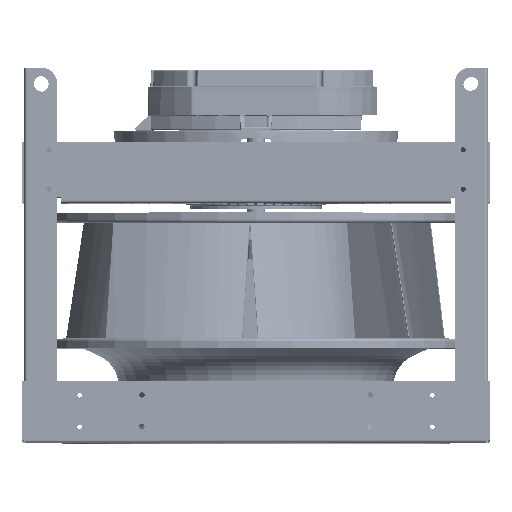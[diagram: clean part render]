
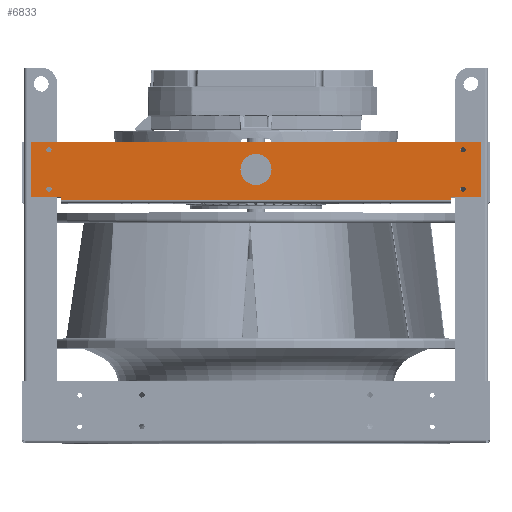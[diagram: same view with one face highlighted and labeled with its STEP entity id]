
A CAD part, top view. The second image highlights one B-rep face of the part: STEP entity #6833.
In plain terms, the highlighted planar face has unit normal (0, 0, 1).
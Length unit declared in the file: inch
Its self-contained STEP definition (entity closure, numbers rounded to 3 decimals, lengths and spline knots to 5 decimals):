
#1068 = CARTESIAN_POINT ( 'NONE',  ( 13.17385, 1.27, 0.135 ) ) ;
#2394 = EDGE_CURVE ( 'NONE', #306601, #306601, #106192, .T. ) ;
#2732 = CARTESIAN_POINT ( 'NONE',  ( -13.17385, 1.27, 0.135 ) ) ;
#4136 = VERTEX_POINT ( 'NONE', #143781 ) ;
#6833 = ADVANCED_FACE ( 'NONE', ( #32430, #138111, #333570, #403207, #340189, #232497 ), #99918, .F. ) ;
#11940 = CARTESIAN_POINT ( 'NONE',  ( 13.34586, -1.27, 0.135 ) ) ;
#13791 = LINE ( 'NONE', #146567, #251068 ) ;
#15664 = EDGE_CURVE ( 'NONE', #82399, #347928, #45183, .T. ) ;
#30208 = CARTESIAN_POINT ( 'NONE',  ( -14.50586, 1.77, 0.135 ) ) ;
#32430 = FACE_BOUND ( 'NONE', #339749, .T. ) ;
#33673 = CIRCLE ( 'NONE', #270308, 1. ) ;
#37167 = CARTESIAN_POINT ( 'NONE',  ( -14.50586, -1.77, 0.135 ) ) ;
#41011 = EDGE_CURVE ( 'NONE', #347928, #4136, #239133, .T. ) ;
#43562 = VERTEX_POINT ( 'NONE', #311688 ) ;
#45183 = LINE ( 'NONE', #121518, #228601 ) ;
#45475 = EDGE_CURVE ( 'NONE', #43562, #387076, #67327, .T. ) ;
#47908 = CARTESIAN_POINT ( 'NONE',  ( 14.50586, 1.77, 0.135 ) ) ;
#49853 = EDGE_LOOP ( 'NONE', ( #57583 ) ) ;
#56292 = EDGE_LOOP ( 'NONE', ( #283979 ) ) ;
#57583 = ORIENTED_EDGE ( 'NONE', *, *, #2394, .F. ) ;
#60076 = EDGE_CURVE ( 'NONE', #230720, #43562, #71470, .T. ) ;
#62201 = CIRCLE ( 'NONE', #234439, 0.172 ) ;
#63390 = LINE ( 'NONE', #200471, #200411 ) ;
#67327 = LINE ( 'NONE', #341335, #158115 ) ;
#70202 = VERTEX_POINT ( 'NONE', #274622 ) ;
#71470 = LINE ( 'NONE', #379198, #247603 ) ;
#82399 = VERTEX_POINT ( 'NONE', #152774 ) ;
#95603 = ORIENTED_EDGE ( 'NONE', *, *, #45475, .T. ) ;
#98949 = CIRCLE ( 'NONE', #421553, 0.172 ) ;
#99918 = PLANE ( 'NONE',  #267162 ) ;
#100777 = DIRECTION ( 'NONE',  ( -1., 0., 0. ) ) ;
#106192 = CIRCLE ( 'NONE', #313903, 0.172 ) ;
#115152 = CARTESIAN_POINT ( 'NONE',  ( 12.59586, 1.9775, 0.135 ) ) ;
#116811 = VECTOR ( 'NONE', #441384, 39.37008 ) ;
#121518 = CARTESIAN_POINT ( 'NONE',  ( 14.50586, -1.77, 0.135 ) ) ;
#130524 = AXIS2_PLACEMENT_3D ( 'NONE', #134175, #239654, #138628 ) ;
#132934 = CARTESIAN_POINT ( 'NONE',  ( -13.34586, -1.27, 0.135 ) ) ;
#133716 = DIRECTION ( 'NONE',  ( -1., 0., 0. ) ) ;
#134175 = CARTESIAN_POINT ( 'NONE',  ( -13.34586, 1.27, 0.135 ) ) ;
#138111 = FACE_OUTER_BOUND ( 'NONE', #437319, .T. ) ;
#138628 = DIRECTION ( 'NONE',  ( 1., 0., 0. ) ) ;
#142113 = EDGE_LOOP ( 'NONE', ( #293849 ) ) ;
#143781 = CARTESIAN_POINT ( 'NONE',  ( 12.59586, 1.77, 0.135 ) ) ;
#145616 = DIRECTION ( 'NONE',  ( 1., 0., 0. ) ) ;
#146567 = CARTESIAN_POINT ( 'NONE',  ( 12.59586, 1.9775, 0.135 ) ) ;
#152774 = CARTESIAN_POINT ( 'NONE',  ( 14.50586, -1.77, 0.135 ) ) ;
#153199 = EDGE_CURVE ( 'NONE', #160371, #160371, #62201, .T. ) ;
#156330 = VERTEX_POINT ( 'NONE', #256696 ) ;
#158115 = VECTOR ( 'NONE', #231431, 39.37008 ) ;
#160371 = VERTEX_POINT ( 'NONE', #335355 ) ;
#172989 = EDGE_CURVE ( 'NONE', #156330, #287708, #13791, .T. ) ;
#176095 = EDGE_LOOP ( 'NONE', ( #205519 ) ) ;
#196611 = DIRECTION ( 'NONE',  ( 0., 0., -1. ) ) ;
#200411 = VECTOR ( 'NONE', #337402, 39.37008 ) ;
#200471 = CARTESIAN_POINT ( 'NONE',  ( -12.59586, 1.9775, 0.135 ) ) ;
#205519 = ORIENTED_EDGE ( 'NONE', *, *, #258566, .F. ) ;
#209377 = CIRCLE ( 'NONE', #130524, 0.172 ) ;
#228601 = VECTOR ( 'NONE', #422577, 39.37008 ) ;
#229540 = DIRECTION ( 'NONE',  ( -1., 0., 0. ) ) ;
#230720 = VERTEX_POINT ( 'NONE', #418529 ) ;
#231431 = DIRECTION ( 'NONE',  ( 0., -1., 0. ) ) ;
#232497 = FACE_BOUND ( 'NONE', #49853, .T. ) ;
#234439 = AXIS2_PLACEMENT_3D ( 'NONE', #132934, #301316, #229540 ) ;
#235906 = CARTESIAN_POINT ( 'NONE',  ( -14.50586, -1.77, 0.135 ) ) ;
#239133 = LINE ( 'NONE', #30208, #116811 ) ;
#239654 = DIRECTION ( 'NONE',  ( 0., 0., 1. ) ) ;
#247603 = VECTOR ( 'NONE', #100777, 39.37008 ) ;
#251068 = VECTOR ( 'NONE', #420565, 39.37008 ) ;
#254255 = LINE ( 'NONE', #115152, #278652 ) ;
#256696 = CARTESIAN_POINT ( 'NONE',  ( 12.59586, 1.9775, 0.135 ) ) ;
#258566 = EDGE_CURVE ( 'NONE', #413896, #413896, #209377, .T. ) ;
#267162 = AXIS2_PLACEMENT_3D ( 'NONE', #337960, #196611, #367283 ) ;
#270308 = AXIS2_PLACEMENT_3D ( 'NONE', #284701, #417373, #145616 ) ;
#271786 = LINE ( 'NONE', #235906, #438919 ) ;
#274622 = CARTESIAN_POINT ( 'NONE',  ( 13.51786, -1.27, 0.135 ) ) ;
#278652 = VECTOR ( 'NONE', #389110, 39.37008 ) ;
#279230 = ORIENTED_EDGE ( 'NONE', *, *, #172989, .T. ) ;
#281433 = ORIENTED_EDGE ( 'NONE', *, *, #402212, .T. ) ;
#283979 = ORIENTED_EDGE ( 'NONE', *, *, #288199, .F. ) ;
#284701 = CARTESIAN_POINT ( 'NONE',  ( 0., 0., 0.135 ) ) ;
#285989 = DIRECTION ( 'NONE',  ( 0., 0., 1. ) ) ;
#287708 = VERTEX_POINT ( 'NONE', #397635 ) ;
#288199 = EDGE_CURVE ( 'NONE', #70202, #70202, #98949, .T. ) ;
#293633 = EDGE_CURVE ( 'NONE', #375728, #375728, #33673, .T. ) ;
#293849 = ORIENTED_EDGE ( 'NONE', *, *, #153199, .F. ) ;
#300185 = ORIENTED_EDGE ( 'NONE', *, *, #60076, .T. ) ;
#301316 = DIRECTION ( 'NONE',  ( 0., 0., 1. ) ) ;
#301644 = CARTESIAN_POINT ( 'NONE',  ( 1., 0., 0.135 ) ) ;
#302081 = CARTESIAN_POINT ( 'NONE',  ( 13.34586, 1.27, 0.135 ) ) ;
#306601 = VERTEX_POINT ( 'NONE', #1068 ) ;
#311688 = CARTESIAN_POINT ( 'NONE',  ( -14.50586, 1.77, 0.135 ) ) ;
#313903 = AXIS2_PLACEMENT_3D ( 'NONE', #302081, #338000, #133716 ) ;
#333570 = FACE_BOUND ( 'NONE', #142113, .T. ) ;
#335355 = CARTESIAN_POINT ( 'NONE',  ( -13.51786, -1.27, 0.135 ) ) ;
#337402 = DIRECTION ( 'NONE',  ( 0., -1., 0. ) ) ;
#337960 = CARTESIAN_POINT ( 'NONE',  ( 0., 0., 0.135 ) ) ;
#338000 = DIRECTION ( 'NONE',  ( 0., 0., 1. ) ) ;
#339749 = EDGE_LOOP ( 'NONE', ( #387246 ) ) ;
#340189 = FACE_BOUND ( 'NONE', #56292, .T. ) ;
#341335 = CARTESIAN_POINT ( 'NONE',  ( -14.50586, -1.77, 0.135 ) ) ;
#346216 = EDGE_CURVE ( 'NONE', #387076, #82399, #271786, .T. ) ;
#347928 = VERTEX_POINT ( 'NONE', #47908 ) ;
#367283 = DIRECTION ( 'NONE',  ( -1., 0., 0. ) ) ;
#372906 = DIRECTION ( 'NONE',  ( 1., 0., 0. ) ) ;
#375728 = VERTEX_POINT ( 'NONE', #301644 ) ;
#379198 = CARTESIAN_POINT ( 'NONE',  ( -14.50586, 1.77, 0.135 ) ) ;
#387076 = VERTEX_POINT ( 'NONE', #37167 ) ;
#387246 = ORIENTED_EDGE ( 'NONE', *, *, #293633, .F. ) ;
#389110 = DIRECTION ( 'NONE',  ( 0., -1., 0. ) ) ;
#389338 = DIRECTION ( 'NONE',  ( 1., 0., 0. ) ) ;
#397635 = CARTESIAN_POINT ( 'NONE',  ( -12.59586, 1.9775, 0.135 ) ) ;
#402212 = EDGE_CURVE ( 'NONE', #287708, #230720, #63390, .T. ) ;
#403207 = FACE_BOUND ( 'NONE', #176095, .T. ) ;
#406856 = ORIENTED_EDGE ( 'NONE', *, *, #15664, .T. ) ;
#413896 = VERTEX_POINT ( 'NONE', #2732 ) ;
#415400 = ORIENTED_EDGE ( 'NONE', *, *, #419683, .F. ) ;
#415886 = ORIENTED_EDGE ( 'NONE', *, *, #346216, .T. ) ;
#416201 = ORIENTED_EDGE ( 'NONE', *, *, #41011, .T. ) ;
#417373 = DIRECTION ( 'NONE',  ( 0., 0., 1. ) ) ;
#418529 = CARTESIAN_POINT ( 'NONE',  ( -12.59586, 1.77, 0.135 ) ) ;
#419683 = EDGE_CURVE ( 'NONE', #156330, #4136, #254255, .T. ) ;
#420565 = DIRECTION ( 'NONE',  ( -1., 0., 0. ) ) ;
#421553 = AXIS2_PLACEMENT_3D ( 'NONE', #11940, #285989, #389338 ) ;
#422577 = DIRECTION ( 'NONE',  ( 0., 1., 0. ) ) ;
#437319 = EDGE_LOOP ( 'NONE', ( #95603, #415886, #406856, #416201, #415400, #279230, #281433, #300185 ) ) ;
#438919 = VECTOR ( 'NONE', #372906, 39.37008 ) ;
#441384 = DIRECTION ( 'NONE',  ( -1., 0., 0. ) ) ;
